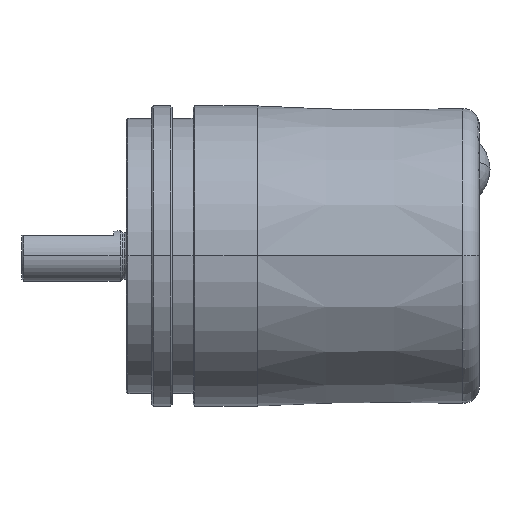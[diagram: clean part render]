
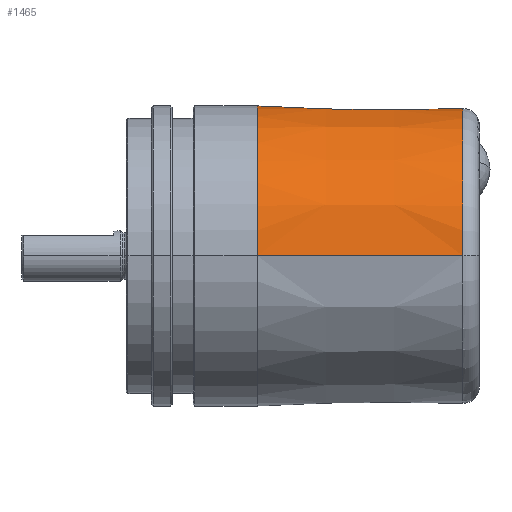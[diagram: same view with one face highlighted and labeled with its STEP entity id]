
A CAD part, top view. The second image highlights one B-rep face of the part: STEP entity #1465.
In plain terms, the highlighted conical face has half-angle 0.75 degrees and reference radius 18 mm.
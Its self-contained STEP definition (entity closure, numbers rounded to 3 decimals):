
#1343 = ORIENTED_EDGE ( 'NONE', *, *, #1344, .T. ) ;
#1344 = EDGE_CURVE ( 'NONE', #1379, #1350, #3796, .T. ) ;
#1350 = VERTEX_POINT ( 'NONE', #3878 ) ;
#1368 = VERTEX_POINT ( 'NONE', #3986 ) ;
#1369 = ORIENTED_EDGE ( 'NONE', *, *, #1370, .T. ) ;
#1370 = EDGE_CURVE ( 'NONE', #1368, #1427, #4007, .T. ) ;
#1378 = EDGE_CURVE ( 'NONE', #1379, #1418, #4509, .T. ) ;
#1379 = VERTEX_POINT ( 'NONE', #4501 ) ;
#1382 = ORIENTED_EDGE ( 'NONE', *, *, #1383, .T. ) ;
#1383 = EDGE_CURVE ( 'NONE', #1427, #1399, #4141, .T. ) ;
#1399 = VERTEX_POINT ( 'NONE', #2692 ) ;
#1400 = ORIENTED_EDGE ( 'NONE', *, *, #1401, .T. ) ;
#1401 = EDGE_CURVE ( 'NONE', #1399, #1418, #2696, .T. ) ;
#1402 = EDGE_CURVE ( 'NONE', #1350, #1403, #2664, .T. ) ;
#1403 = VERTEX_POINT ( 'NONE', #2682 ) ;
#1418 = VERTEX_POINT ( 'NONE', #2728 ) ;
#1419 = ORIENTED_EDGE ( 'NONE', *, *, #1378, .F. ) ;
#1420 = ORIENTED_EDGE ( 'NONE', *, *, #1421, .T. ) ;
#1421 = EDGE_CURVE ( 'NONE', #1463, #1368, #2815, .T. ) ;
#1425 = ORIENTED_EDGE ( 'NONE', *, *, #1402, .T. ) ;
#1427 = VERTEX_POINT ( 'NONE', #2753 ) ;
#1437 = VERTEX_POINT ( 'NONE', #2779 ) ;
#1443 = ORIENTED_EDGE ( 'NONE', *, *, #1444, .F. ) ;
#1444 = EDGE_CURVE ( 'NONE', #1471, #1403, #2780, .T. ) ;
#1453 = ORIENTED_EDGE ( 'NONE', *, *, #1454, .F. ) ;
#1454 = EDGE_CURVE ( 'NONE', #1462, #1437, #2141, .T. ) ;
#1456 = ORIENTED_EDGE ( 'NONE', *, *, #1470, .T. ) ;
#1460 = EDGE_LOOP ( 'NONE', ( #1453, #1456, #1420, #1369, #1382, #1400, #1419, #1343, #1425, #1443, #1472 ) ) ;
#1462 = VERTEX_POINT ( 'NONE', #1800 ) ;
#1463 = VERTEX_POINT ( 'NONE', #1786 ) ;
#1465 = ADVANCED_FACE ( 'NONE', ( #1835 ), #1820, .T. ) ;
#1470 = EDGE_CURVE ( 'NONE', #1462, #1463, #1818, .T. ) ;
#1471 = VERTEX_POINT ( 'NONE', #1831 ) ;
#1472 = ORIENTED_EDGE ( 'NONE', *, *, #1473, .T. ) ;
#1473 = EDGE_CURVE ( 'NONE', #1471, #1437, #4997, .T. ) ;
#1786 = CARTESIAN_POINT ( 'NONE',  ( 17.85, 0., -17.972 ) ) ;
#1799 = DIRECTION ( 'NONE',  ( 0., 0., 1. ) ) ;
#1800 = CARTESIAN_POINT ( 'NONE',  ( 26.3, 0., -17.861 ) ) ;
#1811 = CARTESIAN_POINT ( 'NONE',  ( 15.7, 0., 0. ) ) ;
#1812 = AXIS2_PLACEMENT_3D ( 'NONE', #1811, #1816, #1799 ) ;
#1816 = DIRECTION ( 'NONE',  ( -1., 0., 0. ) ) ;
#1818 = LINE ( 'NONE', #1834, #1833 ) ;
#1820 = CONICAL_SURFACE ( 'NONE', #1812, 18., 0.013 ) ;
#1831 = CARTESIAN_POINT ( 'NONE',  ( 28.3, 9.398, -15.158 ) ) ;
#1832 = DIRECTION ( 'NONE',  ( -1., 0., -0.013 ) ) ;
#1833 = VECTOR ( 'NONE', #1832, 1000. ) ;
#1834 = CARTESIAN_POINT ( 'NONE',  ( 15.7, 0., -18. ) ) ;
#1835 = FACE_OUTER_BOUND ( 'NONE', #1460, .T. ) ;
#2113 = DIRECTION ( 'NONE',  ( 0., 0., 1. ) ) ;
#2114 = DIRECTION ( 'NONE',  ( 1., 0., 0. ) ) ;
#2131 = CARTESIAN_POINT ( 'NONE',  ( 26.3, 0., 0. ) ) ;
#2140 = AXIS2_PLACEMENT_3D ( 'NONE', #2131, #2114, #2113 ) ;
#2141 = CIRCLE ( 'NONE', #2140, 17.861 ) ;
#2656 = CARTESIAN_POINT ( 'NONE',  ( 40.326, 9.486, -14.917 ) ) ;
#2664 = B_SPLINE_CURVE_WITH_KNOTS ( 'NONE', 3,
 ( #2656, #2669, #2668, #2670 ),
 .UNSPECIFIED., .F., .F.,
 ( 4, 4 ),
 ( 0.004, 0.004 ),
 .UNSPECIFIED. ) ;
#2668 = CARTESIAN_POINT ( 'NONE',  ( 40.309, 9.486, -14.917 ) ) ;
#2669 = CARTESIAN_POINT ( 'NONE',  ( 40.317, 9.486, -14.917 ) ) ;
#2670 = CARTESIAN_POINT ( 'NONE',  ( 40.3, 9.486, -14.917 ) ) ;
#2682 = CARTESIAN_POINT ( 'NONE',  ( 40.3, 9.486, -14.917 ) ) ;
#2688 = CARTESIAN_POINT ( 'NONE',  ( 17.149, 0.999, -17.953 ) ) ;
#2691 = CARTESIAN_POINT ( 'NONE',  ( 15.7, 0., 0. ) ) ;
#2692 = CARTESIAN_POINT ( 'NONE',  ( 15.7, 1.65, -17.924 ) ) ;
#2693 = DIRECTION ( 'NONE',  ( 0., 0., -1. ) ) ;
#2694 = DIRECTION ( 'NONE',  ( 1., 0., 0. ) ) ;
#2695 = AXIS2_PLACEMENT_3D ( 'NONE', #2691, #2694, #2693 ) ;
#2696 = CIRCLE ( 'NONE', #2695, 18. ) ;
#2701 = CARTESIAN_POINT ( 'NONE',  ( 16.892, 1.046, -17.954 ) ) ;
#2702 = CARTESIAN_POINT ( 'NONE',  ( 17.022, 1.035, -17.953 ) ) ;
#2728 = CARTESIAN_POINT ( 'NONE',  ( 15.7, 0., 18. ) ) ;
#2753 = CARTESIAN_POINT ( 'NONE',  ( 16.248, 1.102, -17.959 ) ) ;
#2779 = CARTESIAN_POINT ( 'NONE',  ( 26.3, 6.771, -16.528 ) ) ;
#2780 = B_SPLINE_CURVE_WITH_KNOTS ( 'NONE', 3,
 ( #2784, #2787, #2786, #2785 ),
 .UNSPECIFIED., .F., .F.,
 ( 4, 4 ),
 ( 0.002, 0.014 ),
 .UNSPECIFIED. ) ;
#2784 = CARTESIAN_POINT ( 'NONE',  ( 28.3, 9.398, -15.158 ) ) ;
#2785 = CARTESIAN_POINT ( 'NONE',  ( 40.3, 9.486, -14.917 ) ) ;
#2786 = CARTESIAN_POINT ( 'NONE',  ( 36.3, 9.457, -14.998 ) ) ;
#2787 = CARTESIAN_POINT ( 'NONE',  ( 32.3, 9.427, -15.078 ) ) ;
#2815 = B_SPLINE_CURVE_WITH_KNOTS ( 'NONE', 3,
 ( #2822, #2821, #2820, #2819, #2818, #2817, #2816, #2688, #2702, #2701 ),
 .UNSPECIFIED., .F., .F.,
 ( 4, 2, 2, 2, 4 ),
 ( 0.002, 0.002, 0.002, 0.003, 0.003 ),
 .UNSPECIFIED. ) ;
#2816 = CARTESIAN_POINT ( 'NONE',  ( 17.381, 0.884, -17.956 ) ) ;
#2817 = CARTESIAN_POINT ( 'NONE',  ( 17.487, 0.804, -17.959 ) ) ;
#2818 = CARTESIAN_POINT ( 'NONE',  ( 17.662, 0.614, -17.964 ) ) ;
#2819 = CARTESIAN_POINT ( 'NONE',  ( 17.732, 0.501, -17.967 ) ) ;
#2820 = CARTESIAN_POINT ( 'NONE',  ( 17.825, 0.26, -17.971 ) ) ;
#2821 = CARTESIAN_POINT ( 'NONE',  ( 17.85, 0.129, -17.972 ) ) ;
#2822 = CARTESIAN_POINT ( 'NONE',  ( 17.85, 0., -17.972 ) ) ;
#3796 = CIRCLE ( 'NONE', #3831, 17.678 ) ;
#3825 = DIRECTION ( 'NONE',  ( 0., 0., -1. ) ) ;
#3826 = DIRECTION ( 'NONE',  ( -1., 0., 0. ) ) ;
#3827 = CARTESIAN_POINT ( 'NONE',  ( 40.326, 0., 0. ) ) ;
#3831 = AXIS2_PLACEMENT_3D ( 'NONE', #3827, #3826, #3825 ) ;
#3878 = CARTESIAN_POINT ( 'NONE',  ( 40.326, 9.486, -14.917 ) ) ;
#3986 = CARTESIAN_POINT ( 'NONE',  ( 16.892, 1.046, -17.954 ) ) ;
#4007 =( BOUNDED_CURVE ( )  B_SPLINE_CURVE ( 3, ( #4156, #4182, #4173, #4172 ),
 .UNSPECIFIED., .F., .T. ) 
 B_SPLINE_CURVE_WITH_KNOTS ( ( 4, 4 ),
 ( 4.62, 4.623 ),
 .UNSPECIFIED. ) 
 CURVE ( )  GEOMETRIC_REPRESENTATION_ITEM ( )  RATIONAL_B_SPLINE_CURVE ( ( 1., 1., 1., 1. ) ) 
 REPRESENTATION_ITEM ( '' )  );
#4009 = CARTESIAN_POINT ( 'NONE',  ( 15.7, 1.65, -17.924 ) ) ;
#4141 =( BOUNDED_CURVE ( )  B_SPLINE_CURVE ( 3, ( #4159, #4161, #4157, #4009 ),
 .UNSPECIFIED., .F., .T. ) 
 B_SPLINE_CURVE_WITH_KNOTS ( ( 4, 4 ),
 ( 4.761, 4.791 ),
 .UNSPECIFIED. ) 
 CURVE ( )  GEOMETRIC_REPRESENTATION_ITEM ( )  RATIONAL_B_SPLINE_CURVE ( ( 1., 1., 1., 1. ) ) 
 REPRESENTATION_ITEM ( '' )  );
#4156 = CARTESIAN_POINT ( 'NONE',  ( 16.892, 1.046, -17.954 ) ) ;
#4157 = CARTESIAN_POINT ( 'NONE',  ( 15.882, 1.468, -17.939 ) ) ;
#4159 = CARTESIAN_POINT ( 'NONE',  ( 16.248, 1.102, -17.959 ) ) ;
#4161 = CARTESIAN_POINT ( 'NONE',  ( 16.065, 1.285, -17.95 ) ) ;
#4172 = CARTESIAN_POINT ( 'NONE',  ( 16.248, 1.102, -17.959 ) ) ;
#4173 = CARTESIAN_POINT ( 'NONE',  ( 16.462, 1.084, -17.957 ) ) ;
#4182 = CARTESIAN_POINT ( 'NONE',  ( 16.677, 1.065, -17.956 ) ) ;
#4501 = CARTESIAN_POINT ( 'NONE',  ( 40.326, 0., 17.678 ) ) ;
#4506 = DIRECTION ( 'NONE',  ( -1., 0., 0.013 ) ) ;
#4507 = VECTOR ( 'NONE', #4506, 1000. ) ;
#4508 = CARTESIAN_POINT ( 'NONE',  ( 15.7, 0., 18. ) ) ;
#4509 = LINE ( 'NONE', #4508, #4507 ) ;
#4947 = CARTESIAN_POINT ( 'NONE',  ( 27.533, 9.191, -15.296 ) ) ;
#4948 = CARTESIAN_POINT ( 'NONE',  ( 27.672, 9.264, -15.25 ) ) ;
#4949 = CARTESIAN_POINT ( 'NONE',  ( 27.977, 9.368, -15.181 ) ) ;
#4951 = CARTESIAN_POINT ( 'NONE',  ( 26.3, 6.771, -16.528 ) ) ;
#4952 = CARTESIAN_POINT ( 'NONE',  ( 26.3, 7.074, -16.404 ) ) ;
#4954 = CARTESIAN_POINT ( 'NONE',  ( 28.3, 9.398, -15.158 ) ) ;
#4988 = CARTESIAN_POINT ( 'NONE',  ( 28.135, 9.397, -15.161 ) ) ;
#4997 = B_SPLINE_CURVE_WITH_KNOTS ( 'NONE', 3,
 ( #4954, #4988, #4949, #4948, #4947, #5018, #5017, #5002, #5001, #5000, #4952, #4951 ),
 .UNSPECIFIED., .F., .F.,
 ( 4, 2, 2, 2, 2, 4 ),
 ( 0., 0., 0.001, 0.002, 0.003, 0.004 ),
 .UNSPECIFIED. ) ;
#5000 = CARTESIAN_POINT ( 'NONE',  ( 26.343, 7.37, -16.272 ) ) ;
#5001 = CARTESIAN_POINT ( 'NONE',  ( 26.507, 7.94, -16. ) ) ;
#5002 = CARTESIAN_POINT ( 'NONE',  ( 26.625, 8.207, -15.862 ) ) ;
#5017 = CARTESIAN_POINT ( 'NONE',  ( 26.948, 8.703, -15.59 ) ) ;
#5018 = CARTESIAN_POINT ( 'NONE',  ( 27.15, 8.928, -15.458 ) ) ;
